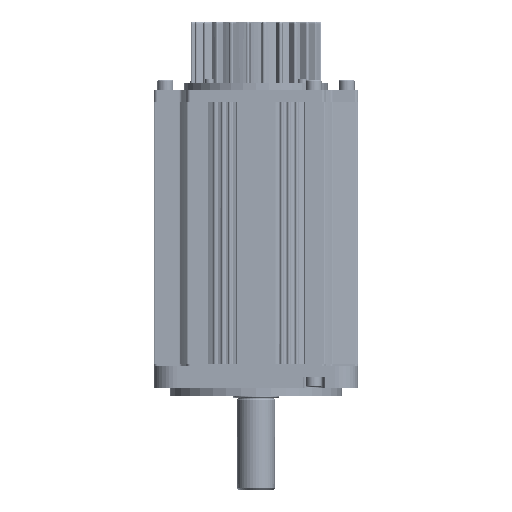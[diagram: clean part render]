
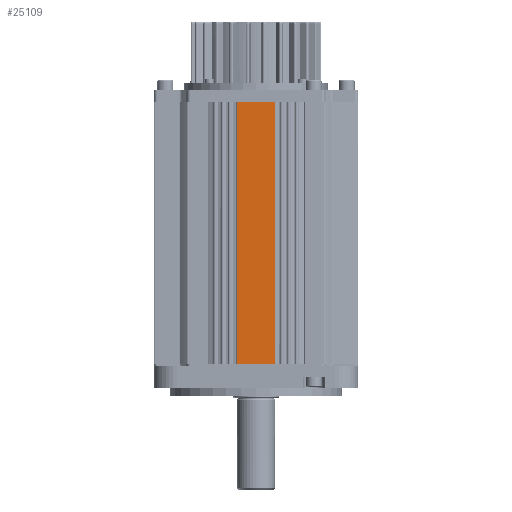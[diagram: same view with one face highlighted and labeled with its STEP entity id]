
A CAD part, front view. The second image highlights one B-rep face of the part: STEP entity #25109.
In plain terms, the highlighted planar face has unit normal (0, -1, 0) as drawn and (0, 0, -1) by its records, which use the part's own axes.
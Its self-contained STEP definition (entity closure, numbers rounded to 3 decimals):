
#4350=DIRECTION('',(-1.,0.,0.));
#4351=VECTOR('',#4350,167.);
#4352=CARTESIAN_POINT('',(167.,-12.3,-65.));
#4353=LINE('',#4352,#4351);
#7542=DIRECTION('',(0.,-1.,0.));
#7543=VECTOR('',#7542,24.6);
#7544=CARTESIAN_POINT('',(167.,12.3,-65.));
#7545=LINE('',#7544,#7543);
#10410=DIRECTION('',(1.,0.,0.));
#10411=VECTOR('',#10410,167.);
#10412=CARTESIAN_POINT('',(0.,12.3,-65.));
#10413=LINE('',#10412,#10411);
#10414=DIRECTION('',(0.,-1.,0.));
#10415=VECTOR('',#10414,24.6);
#10416=CARTESIAN_POINT('',(0.,12.3,-65.));
#10417=LINE('',#10416,#10415);
#11067=CARTESIAN_POINT('',(0.,-12.3,-65.));
#11069=VERTEX_POINT('',#11067);
#11070=CARTESIAN_POINT('',(0.,12.3,-65.));
#11071=VERTEX_POINT('',#11070);
#12394=CARTESIAN_POINT('',(167.,-12.3,-65.));
#12395=VERTEX_POINT('',#12394);
#13654=CARTESIAN_POINT('',(167.,12.3,-65.));
#13655=VERTEX_POINT('',#13654);
#25098=CARTESIAN_POINT('',(0.,-65.,-65.));
#25099=DIRECTION('',(0.,0.,-1.));
#25100=DIRECTION('',(0.,1.,0.));
#25101=AXIS2_PLACEMENT_3D('',#25098,#25099,#25100);
#25102=PLANE('',#25101);
#25103=ORIENTED_EDGE('',*,*,#15153,.F.);
#25104=ORIENTED_EDGE('',*,*,#16666,.F.);
#25105=ORIENTED_EDGE('',*,*,#25093,.F.);
#25106=ORIENTED_EDGE('',*,*,#13790,.T.);
#25107=EDGE_LOOP('',(#25103,#25104,#25105,#25106));
#25108=FACE_OUTER_BOUND('',#25107,.F.);
#25109=ADVANCED_FACE('',(#25108),#25102,.T.);
#13790=EDGE_CURVE('',#11071,#11069,#10417,.T.);
#15153=EDGE_CURVE('',#12395,#11069,#4353,.T.);
#16666=EDGE_CURVE('',#13655,#12395,#7545,.T.);
#25093=EDGE_CURVE('',#11071,#13655,#10413,.T.);
